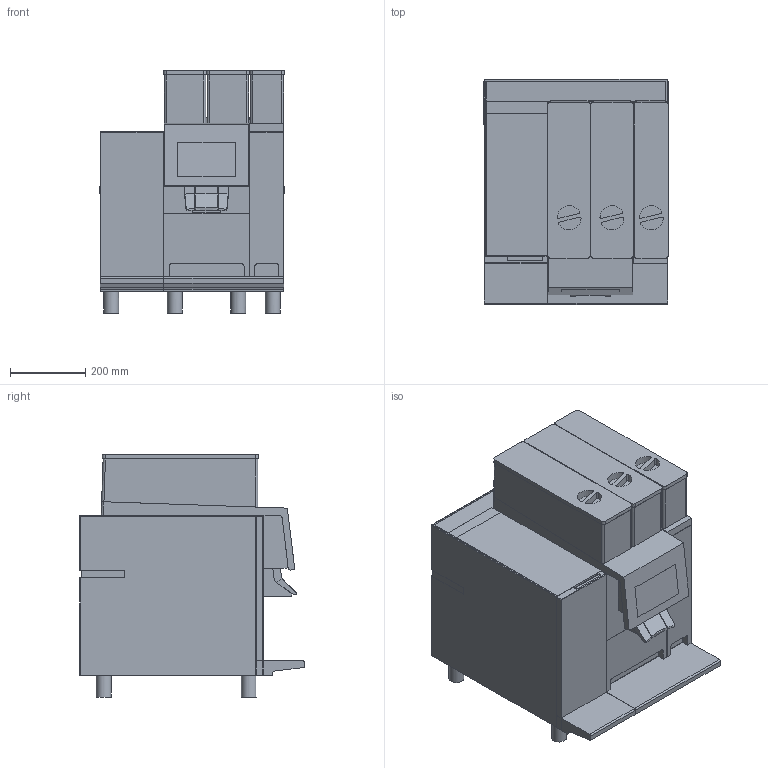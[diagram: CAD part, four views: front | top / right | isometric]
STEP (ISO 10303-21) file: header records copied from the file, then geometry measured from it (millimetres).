
FILE_DESCRIPTION(/* description */ ('Unknown'),/* implementation_level */ '2;1');
FILE_NAME(/* name */ 'HM_BW4c-CTM-P-RS',/* time_stamp */ '2026-08-14T14:27:11+02:00',/* author */ ('Unknown'),/* organization */ ('Unknown'),/* preprocessor_version */ 'ST-DEVELOPER v20',/* originating_system */ 'Solid Edge',/* authorisation */ 'Unknown');
FILE_SCHEMA (('AUTOMOTIVE_DESIGN {1 0 10303 214 3 1 1}'));
Length unit declared in the file: millimetre
Products named in the file (1): HM_BW4c-CTM-P-RS
Bounding box: 491.85 x 599.39 x 645.98 mm (x, y, z)
Volume: 127284975.3 mm3; surface area: 2197009.7 mm2
Topology: 1 solids, 1 shells, 337 faces, 923 edges, 596 vertices
Faces by surface type: plane 239, cylinder 94, sphere 4
Full cylindrical faces by diameter (mm): 40 x8
Entity records: 12934 total; most frequent: CARTESIAN_POINT 1837, ORIENTED_EDGE 1814, DIRECTION 1788, EDGE_CURVE 907, LINE 702, VECTOR 702, VERTEX_POINT 592, AXIS2_PLACEMENT_3D 543
